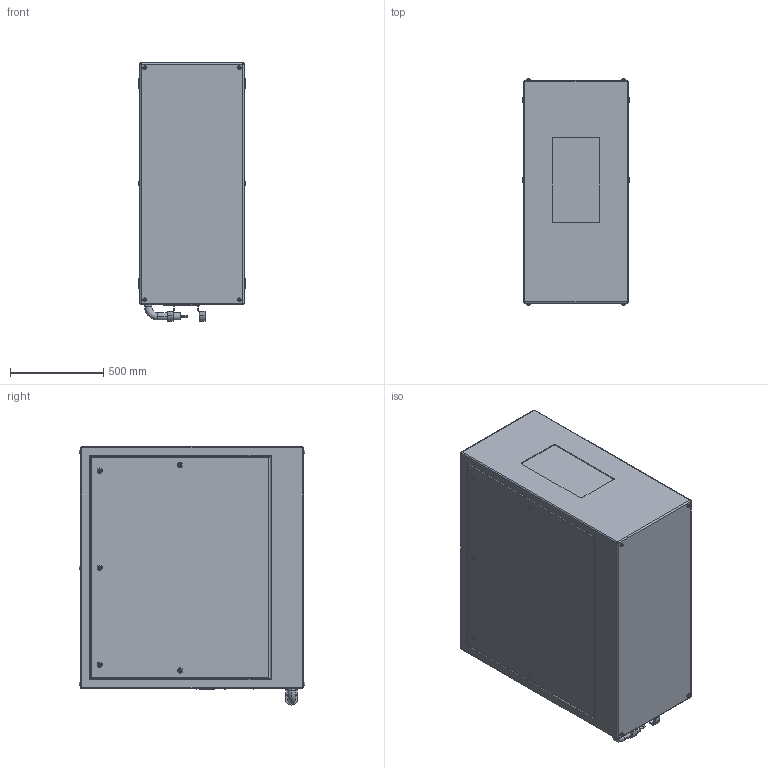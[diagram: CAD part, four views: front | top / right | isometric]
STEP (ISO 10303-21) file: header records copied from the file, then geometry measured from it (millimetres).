
FILE_DESCRIPTION (( 'STEP AP214' ), '1' );
FILE_NAME ('Oasis 59.250.P R02.STEP', '2022-08-27T16:06:37', ( '' ), ( '' ), 'SwSTEP 2.0', 'SolidWorks 2020', '' );
FILE_SCHEMA (( 'AUTOMOTIVE_DESIGN' ));
Length unit declared in the file: inch
Products named in the file (1): Oasis 59.250.P R02
Bounding box: 571.5 x 1211.07 x 1384.3 mm (x, y, z)
Volume: 863013301.6 mm3; surface area: 6453163.9 mm2
Topology: 2 solids, 8 shells, 555 faces, 1267 edges, 804 vertices
Faces by surface type: plane 307, cylinder 186, torus 54, bspline 8
Entity records: 21408 total; most frequent: CARTESIAN_POINT 3139, DIRECTION 2767, ORIENTED_EDGE 2518, EDGE_CURVE 1259, AXIS2_PLACEMENT_3D 992, VERTEX_POINT 804, VECTOR 783, LINE 783
